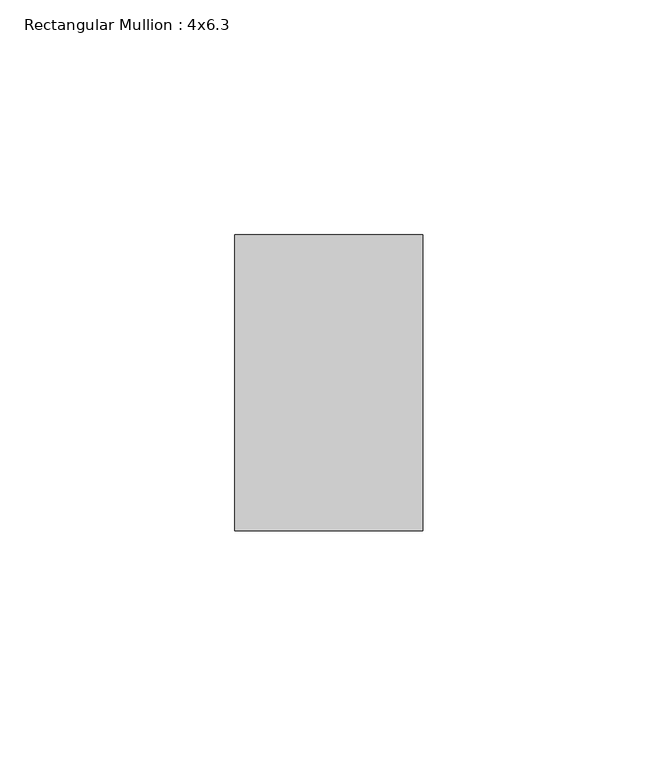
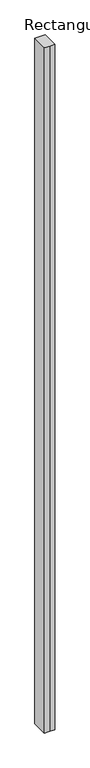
"""IFC4 building model written with IfcOpenShell, lengths in millimetres: member geometry, Rectangular Mullion : 4x6.3."""

from ifc_helpers import new_model, si_unit, frame, origin, place, context, project, spatial, polyline, outline, extrude, source, transform, mapped, element, save


def rectangular_mullion_4x6_3_b5306e91(model_context):
    return source(origin(), model_context, "Body", "SweptSolid", [
        extrude(outline(polyline([(-20.0, 20.0), (-20.0, 83.0), (20.0, 83.0), (20.0, 20.0), (0.0, 20.0), (-20.0, 20.0)])), frame((0.0, 0.0, -2763.6897014), z_axis=(0.0, 0.0, 1.0), x_axis=(1.0, 0.0, 0.0)), (0.0, 0.0, 1.0), 2763.6897014),
    ])


if __name__ == "__main__":
    model = new_model("IFC4")
    model_context = context("Model", 3, world=origin())
    ifc_project = project(units=[si_unit("LENGTHUNIT", "METRE", prefix="MILLI")], contexts=[model_context])
    site = spatial("IfcSite", under=ifc_project)
    building = spatial("IfcBuilding", under=site)
    placement = place(None, origin())
    rectangular_mullion_4x6_3_shape = rectangular_mullion_4x6_3_b5306e91(model_context)
    element("IfcMember", 1, ObjectType="Rectangular Mullion : 4x6.3", at=placement, inside=building, context=model_context, shape_type="MappedRepresentation", body=[
        mapped(rectangular_mullion_4x6_3_shape, transform((0.0, 0.0, 0.0), x_axis=(1.0, 0.0, 0.0), y_axis=(0.0, 1.0, 0.0), z_axis=(0.0, 0.0, 1.0))),
    ])
    save(model, "model.ifc")
